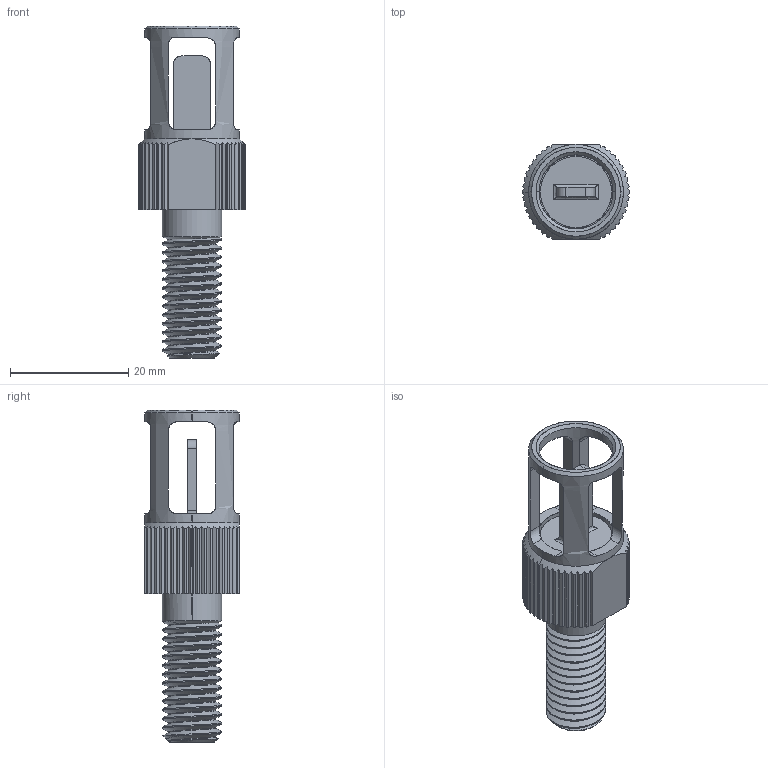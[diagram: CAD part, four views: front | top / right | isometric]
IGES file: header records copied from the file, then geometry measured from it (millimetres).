
Start section: SolidWorks IGES file using analytic representation for surfaces
Global section: file name: C:\Users\Jonathan\Desktop\CELSIUS-TEMPERATURE-SENSOR-ASSEMBLY-X1.IGS; native system: SolidWorks 2014; preprocessor: SolidWorks 2014; author: Jonathan; date: 160118.160556; units: inch
Bounding box: 18 x 16 x 56.05 mm (x, y, z)
Surface area: 4611 mm2 (no closed solid volume)
Topology: 0 solids, 0 shells, 241 faces, 3706 edges, 3706 vertices
Faces by surface type: revolution 138, bspline 103
